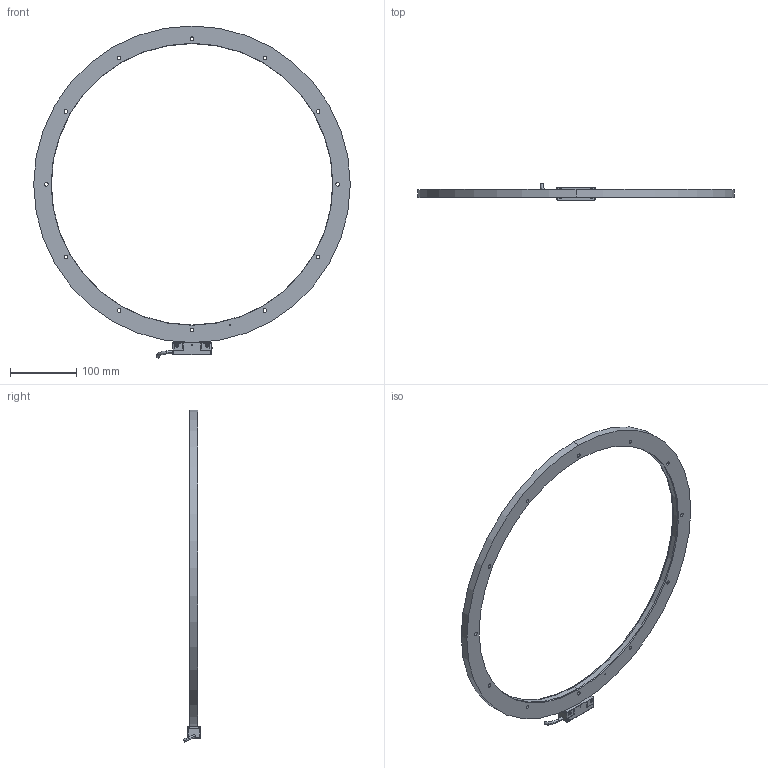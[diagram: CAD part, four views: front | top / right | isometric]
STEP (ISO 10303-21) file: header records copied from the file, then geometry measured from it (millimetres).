
FILE_DESCRIPTION (( 'STEP AP214' ), '1' );
FILE_NAME ('DHR478.STEP', '2024-01-19T12:33:38', ( '' ), ( '' ), 'SwSTEP 2.0', 'SolidWorks 2022', '' );
FILE_SCHEMA (( 'AUTOMOTIVE_DESIGN' ));
Length unit declared in the file: millimetre
Products named in the file (1): DHR478
Bounding box: 478.18 x 25.55 x 501.43 mm (x, y, z)
Volume: 465184.5 mm3; surface area: 117702 mm2
Topology: 2 solids, 2 shells, 2809 faces, 7742 edges, 5132 vertices
Faces by surface type: plane 2484, cylinder 156, bspline 126, cone 24, torus 18, sphere 1
Entity records: 123663 total; most frequent: CARTESIAN_POINT 21557, ORIENTED_EDGE 15454, DIRECTION 13251, EDGE_CURVE 7727, VECTOR 7059, LINE 7059, VERTEX_POINT 5130, AXIS2_PLACEMENT_3D 3096
